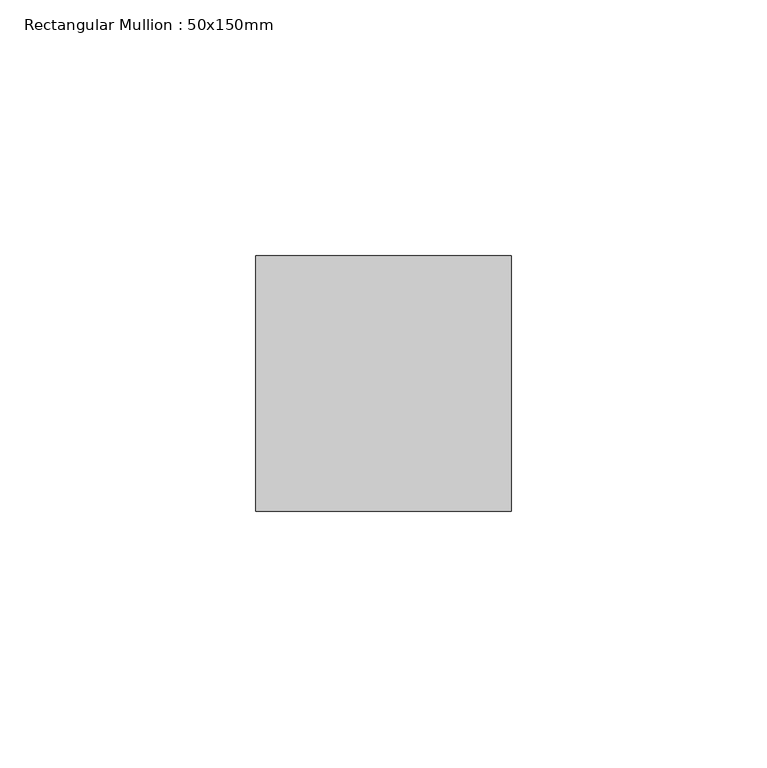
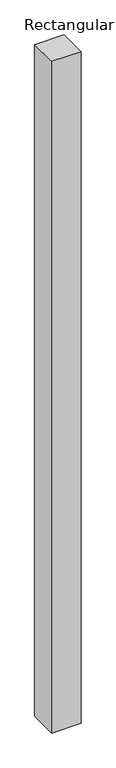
"""IFC4 building model written with IfcOpenShell, lengths in millimetres: member geometry, Rectangular Mullion : 50x150mm."""

from ifc_helpers import new_model, si_unit, frame, origin, place, context, project, spatial, polyline, outline, extrude, source, transform, mapped, element, save


def rectangular_mullion_50x150mm_a60d6222(model_context):
    return source(origin(), model_context, "Body", "SweptSolid", [
        extrude(outline(polyline([(0.0, 25.0), (0.0, -25.0), (-50.0, -25.0), (-50.0, 25.0), (0.0, 25.0)])), frame((0.0, 0.0, -1209.6962349), z_axis=(0.0, 0.0, 1.0), x_axis=(1.0, 0.0, 0.0)), (0.0, 0.0, 1.0), 1209.6962349),
    ])


if __name__ == "__main__":
    model = new_model("IFC4")
    model_context = context("Model", 3, world=origin())
    ifc_project = project(units=[si_unit("LENGTHUNIT", "METRE", prefix="MILLI")], contexts=[model_context])
    site = spatial("IfcSite", under=ifc_project)
    building = spatial("IfcBuilding", under=site)
    placement = place(None, origin())
    rectangular_mullion_50x150mm_shape = rectangular_mullion_50x150mm_a60d6222(model_context)
    element("IfcMember", 1, ObjectType="Rectangular Mullion : 50x150mm", at=placement, inside=building, context=model_context, shape_type="MappedRepresentation", body=[
        mapped(rectangular_mullion_50x150mm_shape, transform((0.0, 0.0, 0.0), x_axis=(1.0, 0.0, 0.0), y_axis=(0.0, 1.0, 0.0), z_axis=(0.0, 0.0, 1.0))),
    ])
    save(model, "model.ifc")
